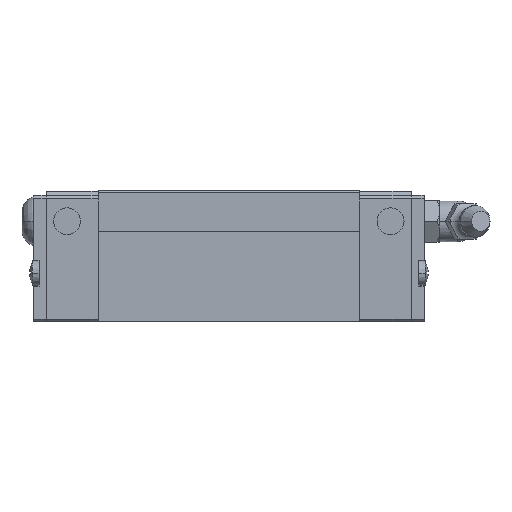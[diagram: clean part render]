
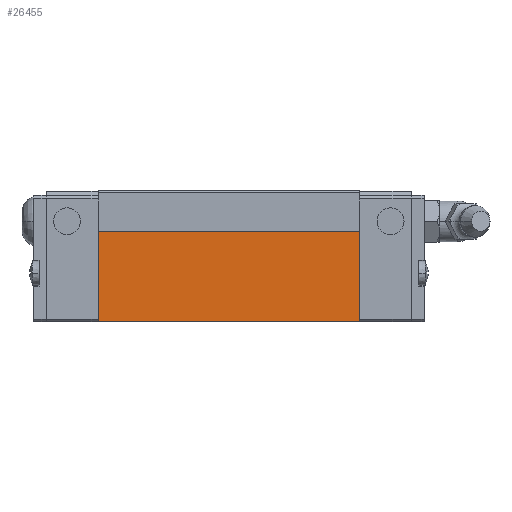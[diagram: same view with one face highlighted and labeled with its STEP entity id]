
A CAD part, left-side view. The second image highlights one B-rep face of the part: STEP entity #26455.
In plain terms, the highlighted planar face has unit normal (-1, 0, 0).
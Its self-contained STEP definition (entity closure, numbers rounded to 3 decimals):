
#13606 = PLANE('',#13607);
#13607 = AXIS2_PLACEMENT_3D('',#13608,#13609,#13610);
#13608 = CARTESIAN_POINT('',(0.,63.05,17.3));
#13609 = DIRECTION('',(0.,-1.,0.));
#13610 = DIRECTION('',(1.,0.,0.));
#23076 = PLANE('',#23077);
#23077 = AXIS2_PLACEMENT_3D('',#23078,#23079,#23080);
#23078 = CARTESIAN_POINT('',(0.,12.55,17.3));
#23079 = DIRECTION('',(0.,-1.,0.));
#23080 = DIRECTION('',(1.,0.,0.));
#25196 = VERTEX_POINT('',#25197);
#25197 = CARTESIAN_POINT('',(-21.6,12.55,22.));
#25211 = PLANE('',#25212);
#25212 = AXIS2_PLACEMENT_3D('',#25213,#25214,#25215);
#25213 = CARTESIAN_POINT('',(-32.6,37.8,22.));
#25214 = DIRECTION('',(0.,0.,1.));
#25215 = DIRECTION('',(1.,0.,-0.));
#25223 = EDGE_CURVE('',#25196,#25224,#25226,.T.);
#25224 = VERTEX_POINT('',#25225);
#25225 = CARTESIAN_POINT('',(-21.6,12.55,4.7));
#25226 = SURFACE_CURVE('',#25227,(#25231,#25238),.PCURVE_S1.);
#25227 = LINE('',#25228,#25229);
#25228 = CARTESIAN_POINT('',(-21.6,12.55,12.15));
#25229 = VECTOR('',#25230,1.);
#25230 = DIRECTION('',(-0.,-0.,-1.));
#25231 = PCURVE('',#23076,#25232);
#25232 = DEFINITIONAL_REPRESENTATION('',(#25233),#25237);
#25233 = LINE('',#25234,#25235);
#25234 = CARTESIAN_POINT('',(-21.6,-5.15));
#25235 = VECTOR('',#25236,1.);
#25236 = DIRECTION('',(0.,-1.));
#25237 = ( GEOMETRIC_REPRESENTATION_CONTEXT(2) 
PARAMETRIC_REPRESENTATION_CONTEXT() REPRESENTATION_CONTEXT('2D SPACE',''
  ) );
#25238 = PCURVE('',#25239,#25244);
#25239 = PLANE('',#25240);
#25240 = AXIS2_PLACEMENT_3D('',#25241,#25242,#25243);
#25241 = CARTESIAN_POINT('',(-21.6,37.8,7.));
#25242 = DIRECTION('',(-1.,0.,0.));
#25243 = DIRECTION('',(0.,0.,1.));
#25244 = DEFINITIONAL_REPRESENTATION('',(#25245),#25249);
#25245 = LINE('',#25246,#25247);
#25246 = CARTESIAN_POINT('',(5.15,-25.25));
#25247 = VECTOR('',#25248,1.);
#25248 = DIRECTION('',(-1.,0.));
#25249 = ( GEOMETRIC_REPRESENTATION_CONTEXT(2) 
PARAMETRIC_REPRESENTATION_CONTEXT() REPRESENTATION_CONTEXT('2D SPACE',''
  ) );
#25267 = PLANE('',#25268);
#25268 = AXIS2_PLACEMENT_3D('',#25269,#25270,#25271);
#25269 = CARTESIAN_POINT('',(-21.5,63.05,4.6));
#25270 = DIRECTION('',(-0.707,-0.,-0.707));
#25271 = DIRECTION('',(0.707,0.,-0.707));
#25601 = VERTEX_POINT('',#25602);
#25602 = CARTESIAN_POINT('',(-21.6,63.05,4.7));
#25623 = EDGE_CURVE('',#25601,#25624,#25626,.T.);
#25624 = VERTEX_POINT('',#25625);
#25625 = CARTESIAN_POINT('',(-21.6,63.05,22.));
#25626 = SURFACE_CURVE('',#25627,(#25631,#25638),.PCURVE_S1.);
#25627 = LINE('',#25628,#25629);
#25628 = CARTESIAN_POINT('',(-21.6,63.05,12.15));
#25629 = VECTOR('',#25630,1.);
#25630 = DIRECTION('',(0.,0.,1.));
#25631 = PCURVE('',#13606,#25632);
#25632 = DEFINITIONAL_REPRESENTATION('',(#25633),#25637);
#25633 = LINE('',#25634,#25635);
#25634 = CARTESIAN_POINT('',(-21.6,-5.15));
#25635 = VECTOR('',#25636,1.);
#25636 = DIRECTION('',(0.,1.));
#25637 = ( GEOMETRIC_REPRESENTATION_CONTEXT(2) 
PARAMETRIC_REPRESENTATION_CONTEXT() REPRESENTATION_CONTEXT('2D SPACE',''
  ) );
#25638 = PCURVE('',#25239,#25639);
#25639 = DEFINITIONAL_REPRESENTATION('',(#25640),#25644);
#25640 = LINE('',#25641,#25642);
#25641 = CARTESIAN_POINT('',(5.15,25.25));
#25642 = VECTOR('',#25643,1.);
#25643 = DIRECTION('',(1.,0.));
#25644 = ( GEOMETRIC_REPRESENTATION_CONTEXT(2) 
PARAMETRIC_REPRESENTATION_CONTEXT() REPRESENTATION_CONTEXT('2D SPACE',''
  ) );
#26434 = EDGE_CURVE('',#25196,#25624,#26435,.T.);
#26435 = SURFACE_CURVE('',#26436,(#26440,#26447),.PCURVE_S1.);
#26436 = LINE('',#26437,#26438);
#26437 = CARTESIAN_POINT('',(-21.6,37.8,22.));
#26438 = VECTOR('',#26439,1.);
#26439 = DIRECTION('',(0.,1.,0.));
#26440 = PCURVE('',#25211,#26441);
#26441 = DEFINITIONAL_REPRESENTATION('',(#26442),#26446);
#26442 = LINE('',#26443,#26444);
#26443 = CARTESIAN_POINT('',(11.,0.));
#26444 = VECTOR('',#26445,1.);
#26445 = DIRECTION('',(0.,1.));
#26446 = ( GEOMETRIC_REPRESENTATION_CONTEXT(2) 
PARAMETRIC_REPRESENTATION_CONTEXT() REPRESENTATION_CONTEXT('2D SPACE',''
  ) );
#26447 = PCURVE('',#25239,#26448);
#26448 = DEFINITIONAL_REPRESENTATION('',(#26449),#26453);
#26449 = LINE('',#26450,#26451);
#26450 = CARTESIAN_POINT('',(15.,0.));
#26451 = VECTOR('',#26452,1.);
#26452 = DIRECTION('',(0.,1.));
#26453 = ( GEOMETRIC_REPRESENTATION_CONTEXT(2) 
PARAMETRIC_REPRESENTATION_CONTEXT() REPRESENTATION_CONTEXT('2D SPACE',''
  ) );
#26455 = ADVANCED_FACE('',(#26456),#25239,.T.);
#26456 = FACE_BOUND('',#26457,.T.);
#26457 = EDGE_LOOP('',(#26458,#26459,#26480,#26481));
#26458 = ORIENTED_EDGE('',*,*,#25623,.F.);
#26459 = ORIENTED_EDGE('',*,*,#26460,.F.);
#26460 = EDGE_CURVE('',#25224,#25601,#26461,.T.);
#26461 = SURFACE_CURVE('',#26462,(#26466,#26473),.PCURVE_S1.);
#26462 = LINE('',#26463,#26464);
#26463 = CARTESIAN_POINT('',(-21.6,50.425,4.7));
#26464 = VECTOR('',#26465,1.);
#26465 = DIRECTION('',(0.,1.,-0.));
#26466 = PCURVE('',#25239,#26467);
#26467 = DEFINITIONAL_REPRESENTATION('',(#26468),#26472);
#26468 = LINE('',#26469,#26470);
#26469 = CARTESIAN_POINT('',(-2.3,12.625));
#26470 = VECTOR('',#26471,1.);
#26471 = DIRECTION('',(0.,1.));
#26472 = ( GEOMETRIC_REPRESENTATION_CONTEXT(2) 
PARAMETRIC_REPRESENTATION_CONTEXT() REPRESENTATION_CONTEXT('2D SPACE',''
  ) );
#26473 = PCURVE('',#25267,#26474);
#26474 = DEFINITIONAL_REPRESENTATION('',(#26475),#26479);
#26475 = LINE('',#26476,#26477);
#26476 = CARTESIAN_POINT('',(-0.141,12.625));
#26477 = VECTOR('',#26478,1.);
#26478 = DIRECTION('',(0.,-1.));
#26479 = ( GEOMETRIC_REPRESENTATION_CONTEXT(2) 
PARAMETRIC_REPRESENTATION_CONTEXT() REPRESENTATION_CONTEXT('2D SPACE',''
  ) );
#26480 = ORIENTED_EDGE('',*,*,#25223,.F.);
#26481 = ORIENTED_EDGE('',*,*,#26434,.T.);
